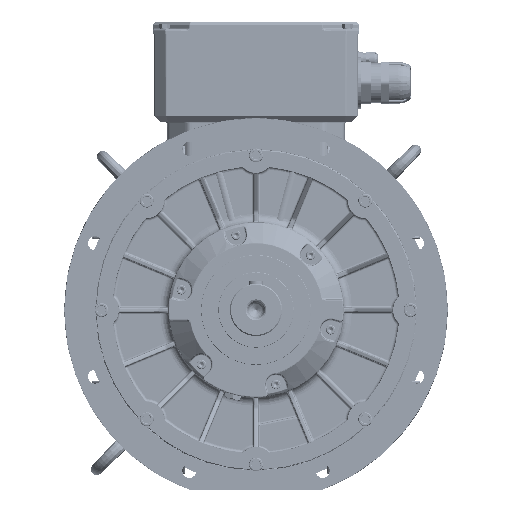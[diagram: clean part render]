
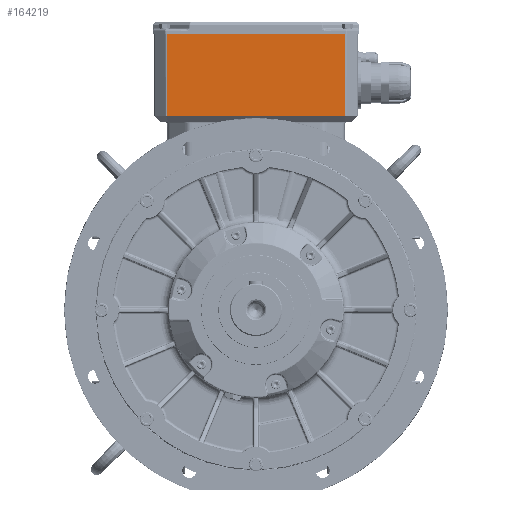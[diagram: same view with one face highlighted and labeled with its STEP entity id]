
A CAD part, front view. The second image highlights one B-rep face of the part: STEP entity #164219.
In plain terms, the highlighted planar face has unit normal (0, -1, 0).
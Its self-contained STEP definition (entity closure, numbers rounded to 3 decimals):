
#27874=ORIENTED_EDGE('',*,*,#69147,.T.);
#27875=ORIENTED_EDGE('',*,*,#69073,.T.);
#27876=ORIENTED_EDGE('',*,*,#69148,.T.);
#27877=ORIENTED_EDGE('',*,*,#69149,.T.);
#69073=EDGE_CURVE('',#90399,#90400,#104264,.T.);
#69147=EDGE_CURVE('',#90443,#90399,#104294,.F.);
#69148=EDGE_CURVE('',#90400,#90444,#104295,.T.);
#69149=EDGE_CURVE('',#90444,#90443,#104296,.T.);
#90399=VERTEX_POINT('',#328171);
#90400=VERTEX_POINT('',#328172);
#90443=VERTEX_POINT('',#328452);
#90444=VERTEX_POINT('',#328454);
#104264=LINE('',#328170,#119765);
#104294=LINE('',#328451,#119795);
#104295=LINE('',#328453,#119796);
#104296=LINE('',#328455,#119797);
#119765=VECTOR('',#264597,1000.);
#119795=VECTOR('',#264753,1000.);
#119796=VECTOR('',#264754,1000.);
#119797=VECTOR('',#264755,1000.);
#135580=EDGE_LOOP('',(#27874,#27875,#27876,#27877));
#147488=FACE_BOUND('',#135580,.T.);
#156839=PLANE('',#241133);
#164219=ADVANCED_FACE('',(#147488),#156839,.T.);
#241133=AXIS2_PLACEMENT_3D('',#328450,#264751,#264752);
#264597=DIRECTION('',(-1.,0.,0.));
#264751=DIRECTION('',(0.,-1.,0.));
#264752=DIRECTION('',(1.,0.,0.));
#264753=DIRECTION('',(0.,0.,-1.));
#264754=DIRECTION('',(0.,0.,-1.));
#264755=DIRECTION('',(1.,0.,0.));
#328170=CARTESIAN_POINT('',(-189.445,40.,474.));
#328171=CARTESIAN_POINT('',(153.757,40.,474.));
#328172=CARTESIAN_POINT('',(-153.757,40.,474.));
#328450=CARTESIAN_POINT('',(155.,40.,476.5));
#328451=CARTESIAN_POINT('',(153.757,40.,476.5));
#328452=CARTESIAN_POINT('',(153.757,40.,334.));
#328453=CARTESIAN_POINT('',(-153.757,40.,476.5));
#328454=CARTESIAN_POINT('',(-153.757,40.,334.));
#328455=CARTESIAN_POINT('',(155.,40.,334.));
